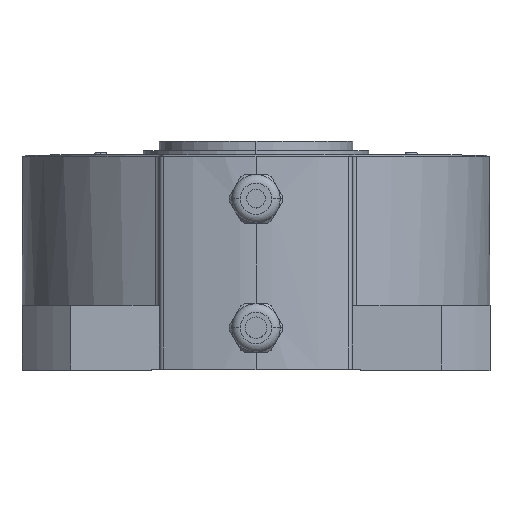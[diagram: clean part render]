
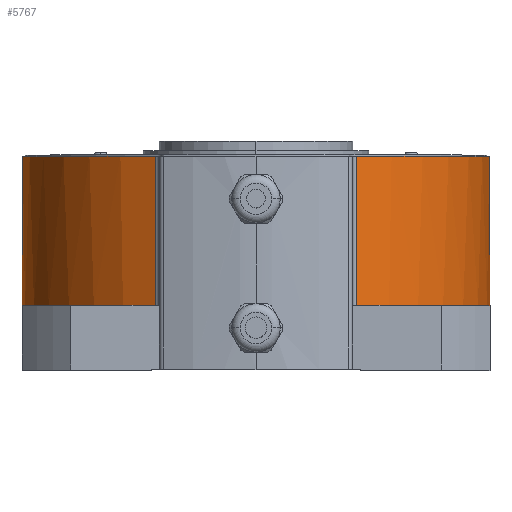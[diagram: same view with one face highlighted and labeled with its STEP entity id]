
A CAD part, top view. The second image highlights one B-rep face of the part: STEP entity #5767.
In plain terms, the highlighted cylindrical face has radius 72.5 mm (diameter 145 mm), a partial arc.
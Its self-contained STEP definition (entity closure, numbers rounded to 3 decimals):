
#116 = DIRECTION ( 'NONE',  ( 0., 1., 0. ) ) ;
#226 = DIRECTION ( 'NONE',  ( 0., 0., 1. ) ) ;
#562 = DIRECTION ( 'NONE',  ( 0., 1., 0. ) ) ;
#1278 = CIRCLE ( 'NONE', #8371, 72.5 ) ;
#1966 = CARTESIAN_POINT ( 'NONE',  ( -31.141, -46.2, 65.471 ) ) ;
#2430 = DIRECTION ( 'NONE',  ( 0., 1., 0. ) ) ;
#2542 = CYLINDRICAL_SURFACE ( 'NONE', #23103, 72.5 ) ;
#2770 = ORIENTED_EDGE ( 'NONE', *, *, #13778, .T. ) ;
#2886 = CARTESIAN_POINT ( 'NONE',  ( -72.5, -46.2, 0. ) ) ;
#2911 = EDGE_CURVE ( 'NONE', #9192, #12695, #14128, .T. ) ;
#3614 = EDGE_CURVE ( 'NONE', #15687, #5919, #14164, .T. ) ;
#4037 = AXIS2_PLACEMENT_3D ( 'NONE', #20712, #15188, #17176 ) ;
#4081 = AXIS2_PLACEMENT_3D ( 'NONE', #22952, #116, #226 ) ;
#4727 = CARTESIAN_POINT ( 'NONE',  ( 0., -46.2, 0. ) ) ;
#4998 = AXIS2_PLACEMENT_3D ( 'NONE', #21515, #17866, #23155 ) ;
#5767 = ADVANCED_FACE ( 'NONE', ( #20349 ), #2542, .T. ) ;
#5919 = VERTEX_POINT ( 'NONE', #2886 ) ;
#7462 = CARTESIAN_POINT ( 'NONE',  ( 0., 0., 0. ) ) ;
#8296 = CIRCLE ( 'NONE', #11268, 72.5 ) ;
#8371 = AXIS2_PLACEMENT_3D ( 'NONE', #7462, #562, #22099 ) ;
#8485 = EDGE_CURVE ( 'NONE', #22632, #9192, #12301, .T. ) ;
#8539 = ORIENTED_EDGE ( 'NONE', *, *, #2911, .T. ) ;
#9108 = VERTEX_POINT ( 'NONE', #1966 ) ;
#9192 = VERTEX_POINT ( 'NONE', #21806 ) ;
#9542 = ORIENTED_EDGE ( 'NONE', *, *, #3614, .T. ) ;
#11268 = AXIS2_PLACEMENT_3D ( 'NONE', #4727, #22536, #15928 ) ;
#11428 = EDGE_LOOP ( 'NONE', ( #19880, #12992, #8539, #2770, #9542, #17066, #20823 ) ) ;
#11551 = VERTEX_POINT ( 'NONE', #19397 ) ;
#11946 = DIRECTION ( 'NONE',  ( 0., -1., 0. ) ) ;
#12301 = LINE ( 'NONE', #21104, #22823 ) ;
#12332 = VECTOR ( 'NONE', #19276, 1000. ) ;
#12695 = VERTEX_POINT ( 'NONE', #18507 ) ;
#12992 = ORIENTED_EDGE ( 'NONE', *, *, #8485, .T. ) ;
#13778 = EDGE_CURVE ( 'NONE', #12695, #15687, #13959, .T. ) ;
#13959 = CIRCLE ( 'NONE', #4998, 72.5 ) ;
#13980 = CARTESIAN_POINT ( 'NONE',  ( 31.141, 0., 65.471 ) ) ;
#14128 = CIRCLE ( 'NONE', #4037, 72.5 ) ;
#14164 = CIRCLE ( 'NONE', #4081, 72.5 ) ;
#15188 = DIRECTION ( 'NONE',  ( 0., 1., 0. ) ) ;
#15687 = VERTEX_POINT ( 'NONE', #21497 ) ;
#15928 = DIRECTION ( 'NONE',  ( 0., 0., 1. ) ) ;
#16598 = CARTESIAN_POINT ( 'NONE',  ( 0., -46.2, 0. ) ) ;
#17066 = ORIENTED_EDGE ( 'NONE', *, *, #18294, .T. ) ;
#17176 = DIRECTION ( 'NONE',  ( 0., 0., 1. ) ) ;
#17845 = CARTESIAN_POINT ( 'NONE',  ( -31.141, -46.2, 65.471 ) ) ;
#17866 = DIRECTION ( 'NONE',  ( 0., 1., 0. ) ) ;
#18294 = EDGE_CURVE ( 'NONE', #5919, #9108, #8296, .T. ) ;
#18507 = CARTESIAN_POINT ( 'NONE',  ( 72.5, -46.2, 0. ) ) ;
#19276 = DIRECTION ( 'NONE',  ( 0., 1., 0. ) ) ;
#19397 = CARTESIAN_POINT ( 'NONE',  ( -31.141, 0., 65.471 ) ) ;
#19880 = ORIENTED_EDGE ( 'NONE', *, *, #20190, .F. ) ;
#20190 = EDGE_CURVE ( 'NONE', #22632, #11551, #1278, .T. ) ;
#20349 = FACE_OUTER_BOUND ( 'NONE', #11428, .T. ) ;
#20589 = DIRECTION ( 'NONE',  ( 0., 0., 1. ) ) ;
#20712 = CARTESIAN_POINT ( 'NONE',  ( 0., -46.2, 0. ) ) ;
#20823 = ORIENTED_EDGE ( 'NONE', *, *, #21265, .T. ) ;
#21050 = LINE ( 'NONE', #17845, #12332 ) ;
#21104 = CARTESIAN_POINT ( 'NONE',  ( 31.141, -46.2, 65.471 ) ) ;
#21265 = EDGE_CURVE ( 'NONE', #9108, #11551, #21050, .T. ) ;
#21497 = CARTESIAN_POINT ( 'NONE',  ( 0., -46.2, -72.5 ) ) ;
#21515 = CARTESIAN_POINT ( 'NONE',  ( 0., -46.2, 0. ) ) ;
#21806 = CARTESIAN_POINT ( 'NONE',  ( 31.141, -46.2, 65.471 ) ) ;
#22099 = DIRECTION ( 'NONE',  ( 0., 0., 1. ) ) ;
#22536 = DIRECTION ( 'NONE',  ( 0., 1., 0. ) ) ;
#22632 = VERTEX_POINT ( 'NONE', #13980 ) ;
#22823 = VECTOR ( 'NONE', #11946, 1000. ) ;
#22952 = CARTESIAN_POINT ( 'NONE',  ( 0., -46.2, 0. ) ) ;
#23103 = AXIS2_PLACEMENT_3D ( 'NONE', #16598, #2430, #20589 ) ;
#23155 = DIRECTION ( 'NONE',  ( 0., 0., 1. ) ) ;
